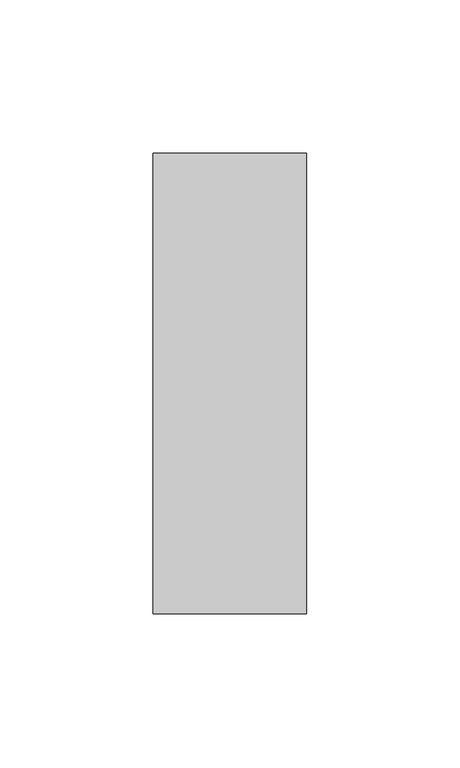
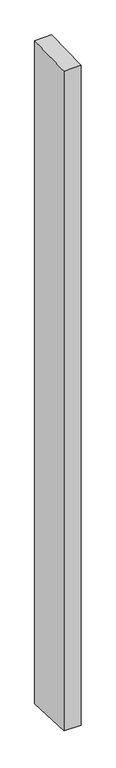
"""IFC4 building model written with IfcOpenShell, lengths in millimetres: member geometry, Прямоугольный импост : 50 x 150 мм."""

import ifcopenshell
import ifcopenshell.guid

model = None  # the IFC model being written
_history = None  # IfcOwnerHistory: only IFC2X3 demands one
_inside = {}  # id of a spatial element -> (the spatial element, [elements in it])
_under = {}  # id of a project, library or spatial element -> (it, [spatial elements below it])
_declared = {}  # id of a project -> (the project, [libraries it declares])
_typed = {}  # id of a type object -> (the type object, [elements of that type])
_made_of = {}  # id of a material, layer set ... -> (it, [elements and type objects made of it])


def new_model(schema):
    """Start an empty IFC model of exactly this schema.

    Asked for "IFC4X3", IfcOpenShell would pick the latest addendum, in which some entities
    have other attributes; the version numbers below select the first issue.
    IFC2X3 requires an IfcOwnerHistory on every rooted entity: one is made here for all.
    """
    global model, _history
    if schema == "IFC4X3":
        model = ifcopenshell.file(schema_version=(4, 3, 0, 0))
    else:
        model = ifcopenshell.file(schema=schema)
    _inside.clear()
    _under.clear()
    _declared.clear()
    _typed.clear()
    _made_of.clear()
    _history = None
    if model.schema == "IFC2X3":
        org = make("IfcOrganization", Name="unknown")
        user = make(
            "IfcPersonAndOrganization",
            ThePerson=make("IfcPerson", FamilyName="unknown"),
            TheOrganization=org,
        )
        app = make(
            "IfcApplication",
            ApplicationDeveloper=org,
            Version="unknown",
            ApplicationFullName="unknown",
            ApplicationIdentifier="unknown",
        )
        _history = make(
            "IfcOwnerHistory",
            OwningUser=user,
            OwningApplication=app,
            ChangeAction="ADDED",
            CreationDate=0,
        )
    return model


def make(cls, **values):
    """One entity of the class cls with the attributes given. An attribute that is None is left unset."""
    return model.create_entity(
        cls, **{name: value for name, value in values.items() if value is not None}
    )


def rooted(cls, **values):
    """An entity with a GlobalId (a new one), such as an element, a storey or a relation."""
    return make(cls, GlobalId=ifcopenshell.guid.new(), OwnerHistory=_history, **values)


def si_unit(unit_type, name, prefix=None):
    """IfcSIUnit, for example si_unit("LENGTHUNIT", "METRE", prefix="MILLI")."""
    return make("IfcSIUnit", UnitType=unit_type, Prefix=prefix, Name=name)


def assignment(units):
    """IfcUnitAssignment: the units of a project."""
    return None if units is None else make("IfcUnitAssignment", Units=units)


def point(xyz):
    """IfcCartesianPoint."""
    return None if xyz is None else make("IfcCartesianPoint", Coordinates=xyz)


def direction(xyz):
    """IfcDirection."""
    return None if xyz is None else make("IfcDirection", DirectionRatios=xyz)


def frame(location, z_axis=None, x_axis=None):
    """IfcAxis2Placement3D, a coordinate frame: its origin and axes. An axis left out is left unset."""
    return make(
        "IfcAxis2Placement3D",
        Location=point(location),
        Axis=direction(z_axis),
        RefDirection=direction(x_axis),
    )


def origin():
    """The frame at (0, 0, 0) with its axes left unset."""
    return frame((0.0, 0.0, 0.0))


def place(relative_to, where):
    """IfcLocalPlacement: puts the frame where relative to a parent placement (None: the world)."""
    return make(
        "IfcLocalPlacement", PlacementRelTo=relative_to, RelativePlacement=where
    )


def context(
    kind, dimensions, precision=None, world=None, true_north=None, identifier=None
):
    """IfcGeometricRepresentationContext, for example the 3D "Model" context."""
    return make(
        "IfcGeometricRepresentationContext",
        ContextIdentifier=identifier,
        ContextType=kind,
        CoordinateSpaceDimension=dimensions,
        Precision=precision,
        WorldCoordinateSystem=world,
        TrueNorth=true_north,
    )


def project(units=None, contexts=None):
    """IfcProject with its units and contexts."""
    return rooted(
        "IfcProject",
        Name="project",
        RepresentationContexts=contexts,
        UnitsInContext=assignment(units),
    )


def spatial(cls, under=None, at=None, **own):
    """A site, building, storey or space (cls), placed at a placement, below another one or the project."""
    s = rooted(cls, ObjectPlacement=at, **own)
    if under is not None:
        _under.setdefault(under.id(), (under, []))[1].append(s)
    return s


def faces_of(points, faces, orient=None, outer=None):
    """IfcFace entities. A face is a list of loops; a loop is a list of indices into points, from 0.

    orient and outer hold one flag for each loop. By default every Orientation is true, the
    first loop of a face is its IfcFaceOuterBound and the others are IfcFaceBound.
    """
    made = []
    for i, loops in enumerate(faces):
        bounds = []
        for j, loop in enumerate(loops):
            is_outer = j == 0 if outer is None else outer[i][j]
            bounds.append(
                make(
                    "IfcFaceOuterBound" if is_outer else "IfcFaceBound",
                    Bound=make("IfcPolyLoop", Polygon=[points[k] for k in loop]),
                    Orientation=True if orient is None else orient[i][j],
                )
            )
        made.append(make("IfcFace", Bounds=bounds))
    return made


def faceted_brep(points, faces, orient=None, outer=None, voids=None):
    """IfcFacetedBrep: a solid bounded by flat faces; with voids (closed shells), ...WithVoids."""
    shared = [point(p) for p in points]
    hull = make("IfcClosedShell", CfsFaces=faces_of(shared, faces, orient, outer))
    if voids is None:
        return make("IfcFacetedBrep", Outer=hull)
    return make(
        "IfcFacetedBrepWithVoids",
        Outer=hull,
        Voids=[
            make(cls, CfsFaces=faces_of(shared, fs, o, b)) for cls, fs, o, b in voids
        ],
    )


def shape(context_of_items, identifier, shape_type, items):
    """IfcShapeRepresentation: the items that make up one representation, for example the "Body"."""
    return make(
        "IfcShapeRepresentation",
        ContextOfItems=context_of_items,
        RepresentationIdentifier=identifier,
        RepresentationType=shape_type,
        Items=items,
    )


def source(mapping_origin, context_of_items, identifier, shape_type, items):
    """IfcRepresentationMap: a shape defined once, which mapped items show again and again."""
    return make(
        "IfcRepresentationMap",
        MappingOrigin=mapping_origin,
        MappedRepresentation=shape(context_of_items, identifier, shape_type, items),
    )


def transform(
    local_origin,
    x_axis=None,
    y_axis=None,
    z_axis=None,
    scale=None,
    scale2=None,
    scale3=None,
    uniform=True,
):
    """IfcCartesianTransformationOperator3D, or its non-uniform kind. x_axis, y_axis, z_axis: its Axis1, 2, 3."""
    if uniform:
        return make(
            "IfcCartesianTransformationOperator3D",
            Axis1=direction(x_axis),
            Axis2=direction(y_axis),
            LocalOrigin=point(local_origin),
            Scale=scale,
            Axis3=direction(z_axis),
        )
    return make(
        "IfcCartesianTransformationOperator3DnonUniform",
        Axis1=direction(x_axis),
        Axis2=direction(y_axis),
        LocalOrigin=point(local_origin),
        Scale=scale,
        Axis3=direction(z_axis),
        Scale2=scale2,
        Scale3=scale3,
    )


def mapped(mapping_source, mapping_target):
    """IfcMappedItem: shows the shape of a source again, moved by a transform."""
    return make(
        "IfcMappedItem", MappingSource=mapping_source, MappingTarget=mapping_target
    )


def made_of(thing, what):
    """Note that an element or type object is made of a material, layer set ...; save() writes the relation."""
    if what is not None:
        _made_of.setdefault(what.id(), (what, []))[1].append(thing)
    return thing


def element(
    cls,
    number,
    at=None,
    inside=None,
    cuts=None,
    type_object=None,
    material=None,
    context=None,
    identifier="Body",
    shape_type=None,
    held_by="IfcProductDefinitionShape",
    body=None,
    shapes=None,
    **own,
):
    """One element of the class cls, such as IfcWall. Its Tag is "e" and its number.

    at: its placement. inside: the storey or other place that contains it. cuts: it is an
    opening in that element (IfcRelVoidsElement). A single representation is given by context,
    identifier, shape_type and body (its items); several are given by shapes. held_by: the class
    of the entity that holds the representations. save() writes the other relations.
    """
    e = rooted(cls, Tag="e%d" % number, ObjectPlacement=at, **own)
    if body is not None:
        shapes = [shape(context, identifier, shape_type, body)]
    if shapes is not None:
        e.Representation = make(held_by, Representations=shapes)
    if inside is not None:
        _inside.setdefault(inside.id(), (inside, []))[1].append(e)
    if cuts is not None:
        rooted(
            "IfcRelVoidsElement", RelatingBuildingElement=cuts, RelatedOpeningElement=e
        )
    if type_object is not None:
        _typed.setdefault(type_object.id(), (type_object, []))[1].append(e)
    return made_of(e, material)


def aggregate(whole, parts):
    """IfcRelAggregates: a whole, such as a stair, and the parts it consists of."""
    return rooted("IfcRelAggregates", RelatingObject=whole, RelatedObjects=parts)


def save(model, path):
    """Write the relations noted so far, then the file.

    IfcRelAggregates (storeys below a building ...), IfcRelContainedInSpatialStructure (elements
    in a storey), IfcRelDefinesByType, IfcRelAssociatesMaterial and IfcRelDeclares: one each for
    every whole, place, type object, material and project.
    """
    for whole, parts in _under.values():
        aggregate(whole, parts)
    for where, things in _inside.values():
        rooted(
            "IfcRelContainedInSpatialStructure",
            RelatedElements=things,
            RelatingStructure=where,
        )
    for kind, things in _typed.values():
        rooted("IfcRelDefinesByType", RelatedObjects=things, RelatingType=kind)
    for what, things in _made_of.values():
        rooted("IfcRelAssociatesMaterial", RelatedObjects=things, RelatingMaterial=what)
    for by, libraries in _declared.values():
        rooted("IfcRelDeclares", RelatingContext=by, RelatedDefinitions=libraries)
    model.write(path)


def member_2d833c1f(model_context):
    return source(origin(), model_context, "Body", "Brep", [
        faceted_brep([(-25.0, 75.0, 1.9496407), (25.0, 75.0, 2.4009286), (25.0, 75.0, -2070.4431407), (-25.0, 75.0, -2069.9128856), (-25.0, -75.0, -2.4009286), (-25.0, -75.0, -2063.5895046), (25.0, -75.0, -1.9496407), (25.0, -75.0, -2064.1197597)], [[[0, 1, 2, 3]], [[4, 0, 3, 5]], [[6, 4, 5, 7]], [[1, 6, 7, 2]], [[1, 0, 4, 6]], [[2, 7, 5, 3]]]),
    ])


if __name__ == "__main__":
    model = new_model("IFC4")
    model_context = context("Model", 3, world=origin())
    ifc_project = project(units=[si_unit("LENGTHUNIT", "METRE", prefix="MILLI")], contexts=[model_context])
    site = spatial("IfcSite", under=ifc_project)
    building = spatial("IfcBuilding", under=site)
    placement = place(None, origin())
    member_shape = member_2d833c1f(model_context)
    element("IfcMember", 1, ObjectType="Прямоугольный импост : 50 x 150 мм", at=placement, inside=building, context=model_context, shape_type="MappedRepresentation", body=[
        mapped(member_shape, transform((0.0, 0.0, 0.0), x_axis=(1.0, 0.0, 0.0), y_axis=(0.0, 1.0, 0.0), z_axis=(0.0, 0.0, 1.0))),
    ])
    save(model, "model.ifc")
